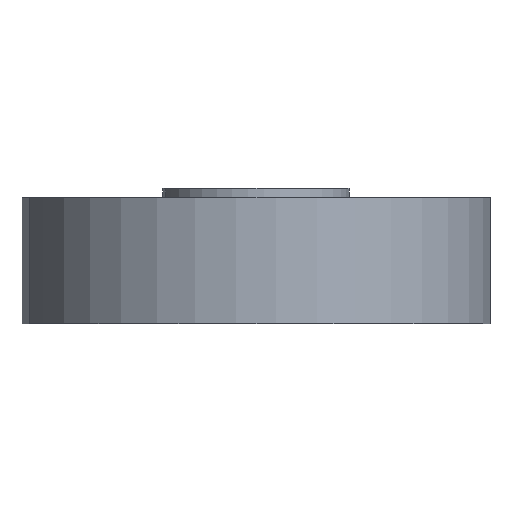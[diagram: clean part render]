
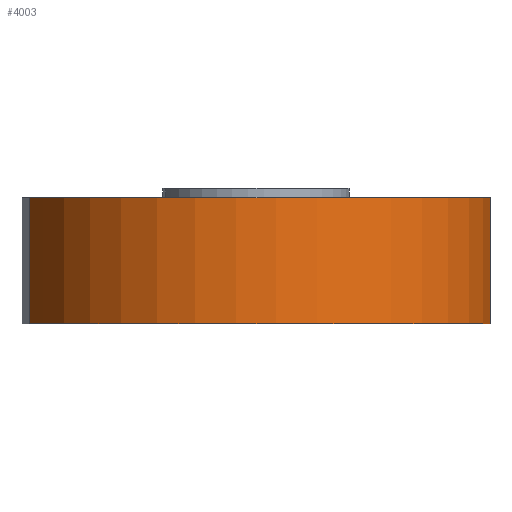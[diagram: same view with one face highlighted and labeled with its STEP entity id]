
A CAD part, left-side view. The second image highlights one B-rep face of the part: STEP entity #4003.
In plain terms, the highlighted free-form (B-spline) face has degree [9, 1] with [10, 2] control points.
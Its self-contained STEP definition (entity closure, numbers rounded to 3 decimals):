
#342=CARTESIAN_POINT('',(0.,0.,41.4));
#343=DIRECTION('',(0.,0.,1.));
#344=DIRECTION('',(-0.259,0.966,0.));
#345=AXIS2_PLACEMENT_3D('',#342,#343,#344);
#347=DIRECTION('',(0.,0.,-1.));
#348=VECTOR('',#347,41.4);
#349=CARTESIAN_POINT('',(-19.916,74.328,41.4));
#350=LINE('',#349,#348);
#351=DIRECTION('',(0.,0.,-1.));
#352=VECTOR('',#351,41.4);
#353=CARTESIAN_POINT('',(19.916,-74.328,41.4));
#354=LINE('',#353,#352);
#375=CARTESIAN_POINT('',(0.,0.,0.));
#376=DIRECTION('',(0.,0.,1.));
#377=DIRECTION('',(-0.259,0.966,0.));
#378=AXIS2_PLACEMENT_3D('',#375,#376,#377);
#2761=CARTESIAN_POINT('',(-19.916,74.328,41.4));
#2762=CARTESIAN_POINT('',(-19.916,74.328,0.));
#2763=VERTEX_POINT('',#2761);
#2764=VERTEX_POINT('',#2762);
#2765=CARTESIAN_POINT('',(19.916,-74.328,41.4));
#2766=CARTESIAN_POINT('',(19.916,-74.328,0.));
#2767=VERTEX_POINT('',#2765);
#2768=VERTEX_POINT('',#2766);
#3973=CARTESIAN_POINT('',(-15.21,75.432,-0.828));
#3974=CARTESIAN_POINT('',(-15.21,75.432,42.228));
#3975=CARTESIAN_POINT('',(-42.594,69.91,-0.828));
#3976=CARTESIAN_POINT('',(-42.594,69.91,42.228));
#3977=CARTESIAN_POINT('',(-67.723,53.205,-0.828));
#3978=CARTESIAN_POINT('',(-67.723,53.205,42.228));
#3979=CARTESIAN_POINT('',(-85.375,26.368,-0.828));
#3980=CARTESIAN_POINT('',(-85.375,26.368,42.228));
#3981=CARTESIAN_POINT('',(-90.914,-6.705,-0.828));
#3982=CARTESIAN_POINT('',(-90.914,-6.705,42.228));
#3983=CARTESIAN_POINT('',(-82.087,-39.651,-0.828));
#3984=CARTESIAN_POINT('',(-82.087,-39.651,42.228));
#3985=CARTESIAN_POINT('',(-60.752,-65.523,-0.828));
#3986=CARTESIAN_POINT('',(-60.752,-65.523,42.228));
#3987=CARTESIAN_POINT('',(-32.047,-79.938,-0.828));
#3988=CARTESIAN_POINT('',(-32.047,-79.938,42.228));
#3989=CARTESIAN_POINT('',(-1.932,-81.841,-0.828));
#3990=CARTESIAN_POINT('',(-1.932,-81.841,42.228));
#3991=CARTESIAN_POINT('',(24.544,-72.931,-0.828));
#3992=CARTESIAN_POINT('',(24.544,-72.931,42.228));
#3993=B_SPLINE_SURFACE_WITH_KNOTS('',9,1,((#3973,#3974),(#3975,#3976),(#3977,
#3978),(#3979,#3980),(#3981,#3982),(#3983,#3984),(#3985,#3986),(#3987,#3988),(
#3989,#3990),(#3991,#3992)),.UNSPECIFIED.,.F.,.F.,.F.,(10,10),(2,2),(
-3.204,0.063),(1.397,44.453),.UNSPECIFIED.);
#3995=ORIENTED_EDGE('',*,*,#3994,.F.);
#3996=ORIENTED_EDGE('',*,*,#3889,.T.);
#3998=ORIENTED_EDGE('',*,*,#3997,.T.);
#4000=ORIENTED_EDGE('',*,*,#3999,.F.);
#4001=EDGE_LOOP('',(#3995,#3996,#3998,#4000));
#4002=FACE_OUTER_BOUND('',#4001,.F.);
#4003=ADVANCED_FACE('',(#4002),#3993,.T.);
#346=CIRCLE('',#345,76.95);
#379=CIRCLE('',#378,76.95);
#3889=EDGE_CURVE('',#2763,#2767,#346,.T.);
#3994=EDGE_CURVE('',#2763,#2764,#350,.T.);
#3997=EDGE_CURVE('',#2767,#2768,#354,.T.);
#3999=EDGE_CURVE('',#2764,#2768,#379,.T.);
